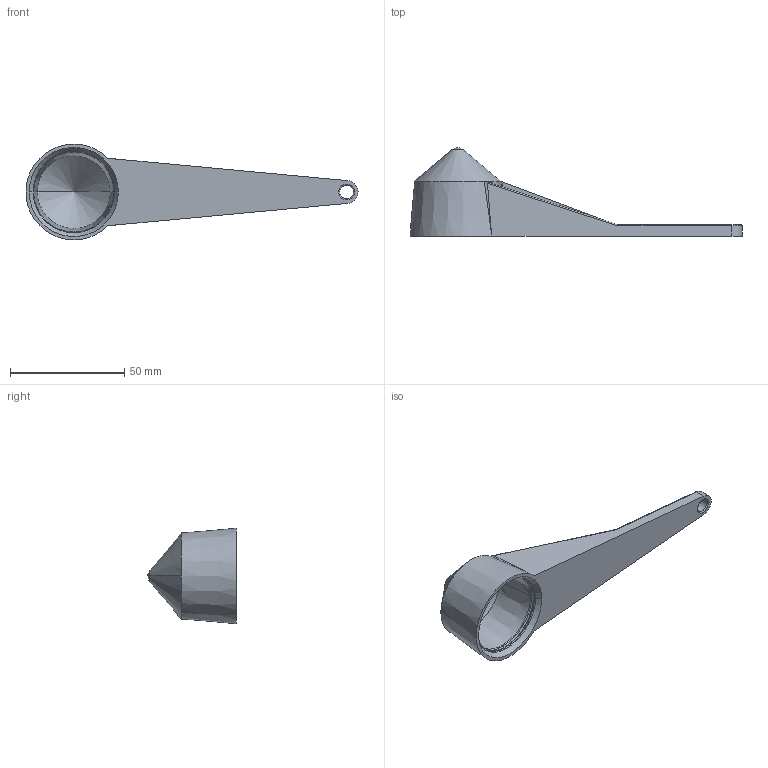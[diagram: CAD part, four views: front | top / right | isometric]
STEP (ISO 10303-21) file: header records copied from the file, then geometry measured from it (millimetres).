
FILE_DESCRIPTION (( 'STEP AP203' ), '1' );
FILE_NAME ('Scoop.STEP', '2023-07-02T12:47:10', ( '' ), ( '' ), 'SwSTEP 2.0', 'SolidWorks 2017', '' );
FILE_SCHEMA (( 'CONFIG_CONTROL_DESIGN' ));
Length unit declared in the file: millimetre
Products named in the file (1): Scoop
Bounding box: 145.44 x 38.69 x 41.88 mm (x, y, z)
Volume: 20556.5 mm3; surface area: 17157.2 mm2
Topology: 1 solids, 1 shells, 158 faces, 373 edges, 194 vertices
Faces by surface type: cylinder 47, bspline 30, torus 29, sphere 20, plane 19, cone 13
Entity records: 5191 total; most frequent: CARTESIAN_POINT 1834, DIRECTION 701, ORIENTED_EDGE 694, EDGE_CURVE 347, AXIS2_PLACEMENT_3D 305, VERTEX_POINT 194, CIRCLE 176, EDGE_LOOP 163
